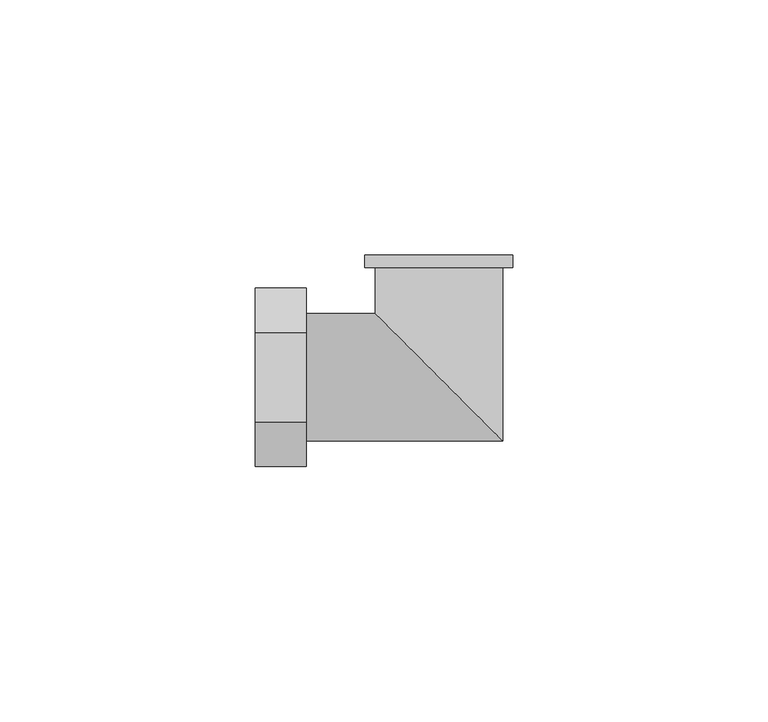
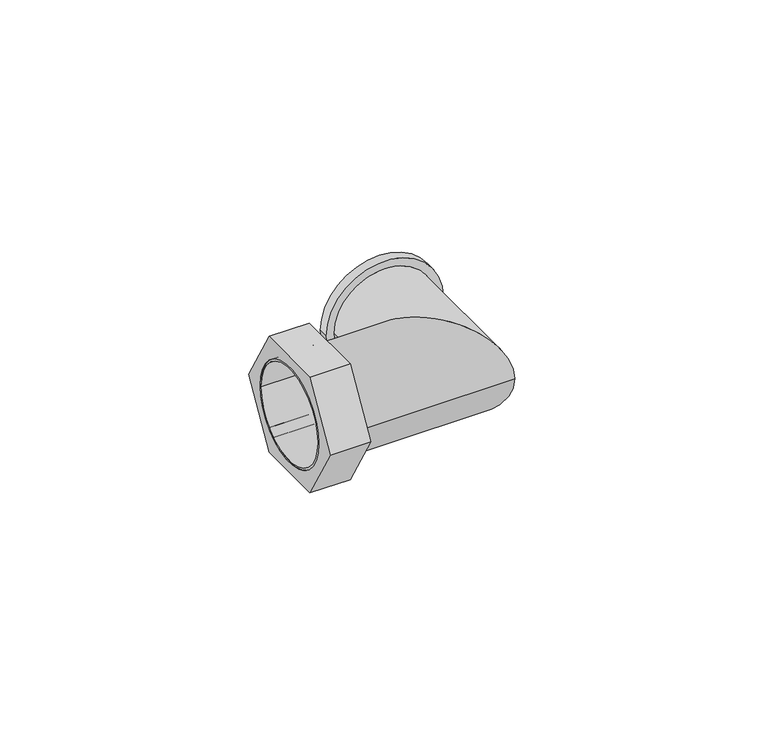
"""IFC4 building model written with IfcOpenShell, lengths in millimetres: pipe fitting geometry, БИР ПЕКС_НПР_Угольник_Гайка накидная : Угольник с накидной гайкой."""

from ifc_helpers import new_model, si_unit, point, frame, origin, origin_2d, place, context, project, spatial, polyline, circle_curve, ellipse_curve, trimmed, segment, composite_curve, outline, extrude, source, transform, mapped, element, save
from ifc_brep_helpers import plane_surface, cylinder_surface, revolved_surface, advanced_brep


def pipe_fitting_ab764f3a(model_context):
    return source(origin(), model_context, "Body", "SolidModel", [
        extrude(outline(polyline([(-8.75, -15.1554446), (-17.5, 0.0), (-8.75, 15.1554446), (8.75, 15.1554446), (17.5, 0.0), (8.75, -15.1554446), (-8.75, -15.1554446)]), holes=[composite_curve([segment(trimmed(circle_curve(origin_2d(), 12.5), [point((-12.5, 0.0))], [point((12.5, 0.0))], True, "CARTESIAN"), True, "CONTINUOUS"), segment(trimmed(circle_curve(origin_2d(), 12.5), [point((12.5, 0.0))], [point((-12.5, 0.0))], True, "CARTESIAN"), True, "CONTINUOUS")], self_intersect=False)]), frame((-36.0, 0.0, 0.0), z_axis=(1.0, 0.0, 0.0), x_axis=(0.0, 1.0, 0.0)), (0.0, 0.0, 1.0), 10.0),
        advanced_brep(
        [(-36.0, -12.5, 0.0), (-36.0, 12.5, 0.0), (-36.0, -12.0, 0.0), (-36.0, 12.0, 0.0), (12.5, -12.5, 0.0), (-12.5, 12.5, 0.0), (-14.5, 24.0, 0.0), (14.5, 24.0, 0.0), (12.0, 24.0, 0.0), (-12.0, 24.0, 0.0), (12.5, 21.5, 0.0), (-12.5, 21.5, 0.0), (-14.5, 21.5, 0.0), (14.5, 21.5, 0.0), (12.0, -12.0, 0.0), (-12.0, 12.0, 0.0), (-12.0, 21.5, 0.0), (12.0, 21.5, 0.0)],
        [
            (0, 1, circle_curve(frame((-36.0, 0.0, 0.0), z_axis=(-1.0, 0.0, 0.0), x_axis=(0.0, 1.0, 0.0)), 12.5)),
            (1, 0, circle_curve(frame((-36.0, 0.0, 0.0), z_axis=(-1.0, 0.0, 0.0), x_axis=(0.0, 1.0, 0.0)), 12.5)),
            (2, 3, circle_curve(frame((-36.0, 0.0, 0.0), z_axis=(1.0, 0.0, 0.0), x_axis=(0.0, 1.0, 0.0)), 12.0)),
            (3, 2, circle_curve(frame((-36.0, 0.0, 0.0), z_axis=(1.0, 0.0, 0.0), x_axis=(0.0, 1.0, 0.0)), 12.0)),
            (0, 4),
            (4, 5, ellipse_curve(frame((0.0, 0.0, 0.0), z_axis=(-0.7071067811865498, -0.7071067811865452, 0.0), x_axis=(-0.7071067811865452, 0.7071067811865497, 0.0)), 17.6776695, 12.5)),
            (5, 1),
            (5, 4, ellipse_curve(frame((0.0, 0.0, 0.0), z_axis=(-0.7071067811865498, -0.7071067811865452, 0.0), x_axis=(-0.7071067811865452, 0.7071067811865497, 0.0)), 17.6776695, 12.5)),
            (6, 7, circle_curve(frame((0.0, 24.0, 0.0), z_axis=(0.0, 1.0, 0.0), x_axis=(1.0, 0.0, 0.0)), 14.5)),
            (7, 6, circle_curve(frame((0.0, 24.0, 0.0), z_axis=(0.0, 1.0, 0.0), x_axis=(1.0, 0.0, 0.0)), 14.5)),
            (8, 9, circle_curve(frame((0.0, 24.0, 0.0), z_axis=(0.0, -1.0, 0.0), x_axis=(-1.0, 0.0, 0.0)), 12.0)),
            (9, 8, circle_curve(frame((0.0, 24.0, 0.0), z_axis=(0.0, -1.0, 0.0), x_axis=(-1.0, 0.0, 0.0)), 12.0)),
            (4, 10),
            (10, 11, circle_curve(frame((0.0, 21.5, 0.0), z_axis=(0.0, -1.0, 0.0), x_axis=(-1.0, 0.0, 0.0)), 12.5)),
            (11, 5),
            (11, 10, circle_curve(frame((0.0, 21.5, 0.0), z_axis=(0.0, -1.0, 0.0), x_axis=(-1.0, 0.0, 0.0)), 12.5)),
            (12, 13, circle_curve(frame((0.0, 21.5, 0.0), z_axis=(0.0, -1.0, 0.0), x_axis=(1.0, 0.0, 0.0)), 14.5)),
            (13, 12, circle_curve(frame((0.0, 21.5, 0.0), z_axis=(0.0, -1.0, 0.0), x_axis=(1.0, 0.0, 0.0)), 14.5)),
            (12, 6),
            (7, 13),
            (2, 14),
            (14, 15, ellipse_curve(frame((0.0, 0.0, 0.0), z_axis=(0.7071067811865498, 0.7071067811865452, 0.0), x_axis=(0.7071067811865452, -0.7071067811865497, 0.0)), 16.9705627, 12.0)),
            (15, 3),
            (15, 14, ellipse_curve(frame((0.0, 0.0, 0.0), z_axis=(0.7071067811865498, 0.7071067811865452, 0.0), x_axis=(0.7071067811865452, -0.7071067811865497, 0.0)), 16.9705627, 12.0)),
            (9, 16),
            (16, 15),
            (14, 17),
            (17, 8),
        ],
        [
            plane_surface(frame((-36.0, 0.0, 0.0), z_axis=(-1.0, 0.0, 0.0), x_axis=(0.0, 0.0, 1.0))),
            cylinder_surface(frame((-36.0, 0.0, 0.0), z_axis=(-1.0, 0.0, 0.0), x_axis=(0.0, 1.0, 0.0)), 12.5),
            plane_surface(frame((0.0, 24.0, 0.0), z_axis=(0.0, 1.0, 0.0), x_axis=(0.0, 0.0, 1.0))),
            cylinder_surface(frame((0.0, 0.0, 0.0), z_axis=(0.0, -1.0, 0.0), x_axis=(-1.0, 0.0, 0.0)), 12.5),
            plane_surface(frame((14.5, 21.5, 0.0), z_axis=(0.0, -1.0, 0.0), x_axis=(0.0, 0.0, 1.0))),
            cylinder_surface(frame((0.0, 24.0, 0.0), z_axis=(0.0, -1.0, 0.0), x_axis=(1.0, 0.0, 0.0)), 14.5),
            revolved_surface(polyline([(12.0, 12.0, 0.0), (-36.0, 12.0, 0.0)]), (-36.0, 0.0, 0.0), (1.0, 0.0, 0.0)),
            revolved_surface(polyline([(-12.0, 24.0, 0.0), (-12.0, -12.0, 0.0)]), (0.0, 0.0, 0.0), (0.0, 1.0, 0.0)),
        ],
        [
            (0, [[1, 2], [3, 4]]),
            (1, [[-1, 5, 6, 7]]),
            (1, [[-2, -7, 8, -5]]),
            (2, [[9, 10], [11, 12]]),
            (3, [[-6, 13, 14, 15]]),
            (3, [[-8, -15, 16, -13]]),
            (4, [[17, 18], [-14, -16]]),
            (5, [[-17, 19, -10, 20]]),
            (5, [[-18, -20, -9, -19]]),
            (6, [[-3, 21, 22, 23]]),
            (6, [[-4, -23, 24, -21]]),
            (7, [[-12, 25, 26, -22, 27, 28]]),
            (7, [[-11, -28, -27, -24, -26, -25]]),
        ],
    ),
    ])


if __name__ == "__main__":
    model = new_model("IFC4")
    model_context = context("Model", 3, world=origin())
    ifc_project = project(units=[si_unit("LENGTHUNIT", "METRE", prefix="MILLI")], contexts=[model_context])
    site = spatial("IfcSite", under=ifc_project)
    building = spatial("IfcBuilding", under=site)
    placement = place(None, origin())
    pipe_fitting_shape = pipe_fitting_ab764f3a(model_context)
    element("IfcPipeFitting", 1, ObjectType="БИР ПЕКС_НПР_Угольник_Гайка накидная : Угольник с накидной гайкой", at=placement, inside=building, context=model_context, shape_type="MappedRepresentation", body=[
        mapped(pipe_fitting_shape, transform((0.0, 0.0, 0.0), x_axis=(1.0, 0.0, 0.0), y_axis=(0.0, 1.0, 0.0), z_axis=(0.0, 0.0, 1.0))),
    ])
    save(model, "model.ifc")
